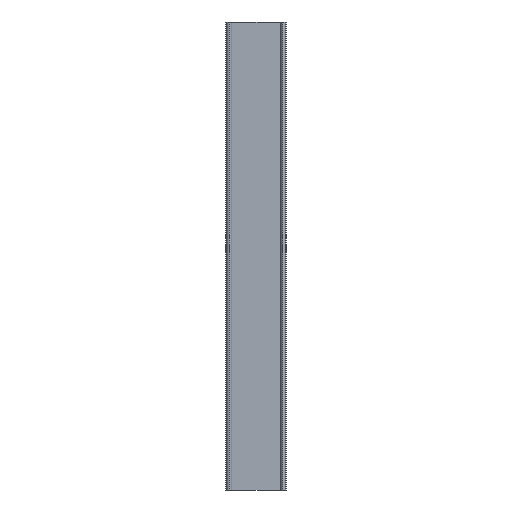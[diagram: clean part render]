
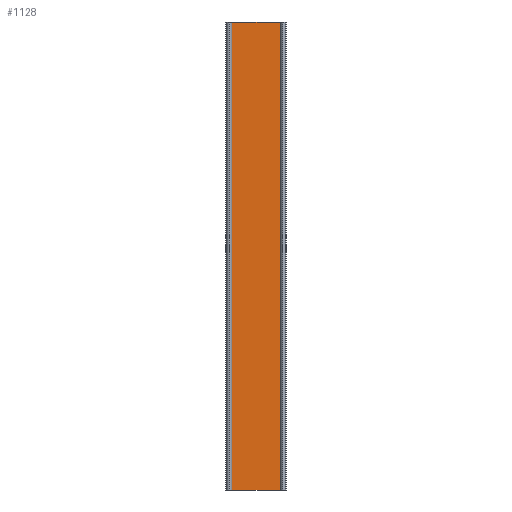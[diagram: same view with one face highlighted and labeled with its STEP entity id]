
A CAD part, front view. The second image highlights one B-rep face of the part: STEP entity #1128.
In plain terms, the highlighted planar face has unit normal (0, -1, 0).
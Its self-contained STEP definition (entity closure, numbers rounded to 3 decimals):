
#60 = CARTESIAN_POINT ( 'NONE',  ( -5.6, -0.8, 50. ) ) ;
#76 = VECTOR ( 'NONE', #352, 1000. ) ;
#95 = DIRECTION ( 'NONE',  ( 0., 1., 0. ) ) ;
#293 = CARTESIAN_POINT ( 'NONE',  ( 5.6, -0.8, 50. ) ) ;
#339 = VERTEX_POINT ( 'NONE', #803 ) ;
#346 = VERTEX_POINT ( 'NONE', #1058 ) ;
#352 = DIRECTION ( 'NONE',  ( 0., 0., -1. ) ) ;
#385 = CARTESIAN_POINT ( 'NONE',  ( -5.6, -0.8, 50. ) ) ;
#468 = LINE ( 'NONE', #947, #716 ) ;
#506 = EDGE_CURVE ( 'NONE', #346, #339, #717, .T. ) ;
#518 = DIRECTION ( 'NONE',  ( 0., 0., -1. ) ) ;
#574 = DIRECTION ( 'NONE',  ( 0., 0., 1. ) ) ;
#636 = ORIENTED_EDGE ( 'NONE', *, *, #1124, .T. ) ;
#658 = VERTEX_POINT ( 'NONE', #739 ) ;
#669 = VECTOR ( 'NONE', #518, 1000. ) ;
#670 = ORIENTED_EDGE ( 'NONE', *, *, #978, .F. ) ;
#673 = FACE_OUTER_BOUND ( 'NONE', #1014, .T. ) ;
#716 = VECTOR ( 'NONE', #1156, 1000. ) ;
#717 = LINE ( 'NONE', #912, #669 ) ;
#739 = CARTESIAN_POINT ( 'NONE',  ( -5.6, -0.8, -50. ) ) ;
#746 = DIRECTION ( 'NONE',  ( 1., 0., 0. ) ) ;
#803 = CARTESIAN_POINT ( 'NONE',  ( 5.6, -0.8, -50. ) ) ;
#829 = ORIENTED_EDGE ( 'NONE', *, *, #1006, .T. ) ;
#912 = CARTESIAN_POINT ( 'NONE',  ( 5.6, -0.8, 50. ) ) ;
#947 = CARTESIAN_POINT ( 'NONE',  ( 5.6, -0.8, -50. ) ) ;
#978 = EDGE_CURVE ( 'NONE', #1143, #346, #1035, .T. ) ;
#1006 = EDGE_CURVE ( 'NONE', #1143, #658, #1226, .T. ) ;
#1007 = VECTOR ( 'NONE', #746, 1000. ) ;
#1014 = EDGE_LOOP ( 'NONE', ( #636, #1182, #670, #829 ) ) ;
#1035 = LINE ( 'NONE', #1210, #1007 ) ;
#1058 = CARTESIAN_POINT ( 'NONE',  ( 5.6, -0.8, 50. ) ) ;
#1119 = AXIS2_PLACEMENT_3D ( 'NONE', #293, #95, #574 ) ;
#1124 = EDGE_CURVE ( 'NONE', #658, #339, #468, .T. ) ;
#1128 = ADVANCED_FACE ( 'NONE', ( #673 ), #1148, .F. ) ;
#1143 = VERTEX_POINT ( 'NONE', #385 ) ;
#1148 = PLANE ( 'NONE',  #1119 ) ;
#1156 = DIRECTION ( 'NONE',  ( 1., 0., 0. ) ) ;
#1182 = ORIENTED_EDGE ( 'NONE', *, *, #506, .F. ) ;
#1210 = CARTESIAN_POINT ( 'NONE',  ( 5.6, -0.8, 50. ) ) ;
#1226 = LINE ( 'NONE', #60, #76 ) ;
